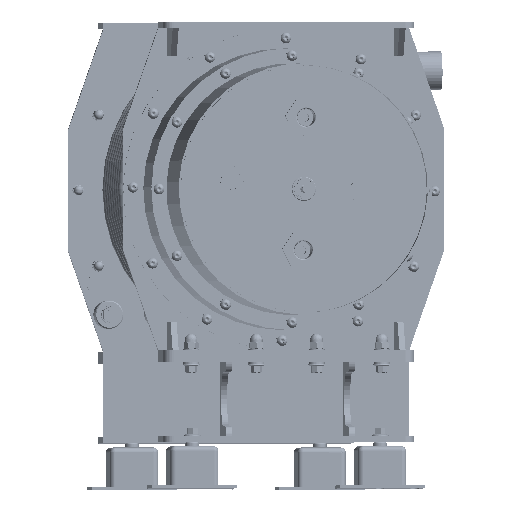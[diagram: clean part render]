
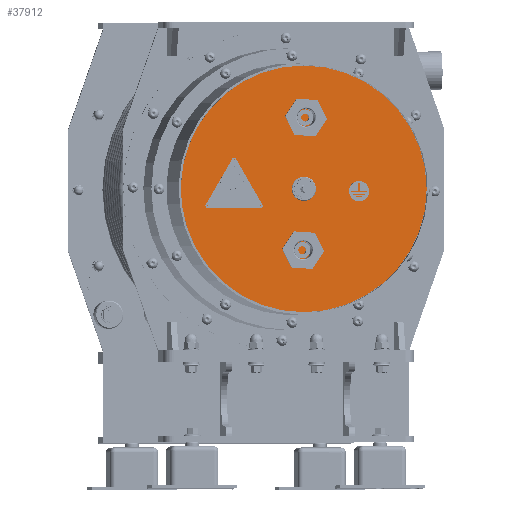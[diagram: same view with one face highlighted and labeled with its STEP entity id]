
A CAD part, top view. The second image highlights one B-rep face of the part: STEP entity #37912.
In plain terms, the highlighted planar face has unit normal (0.077, 0, 0.997) as drawn and (0, 1, 0) by its records, which use the part's own axes.
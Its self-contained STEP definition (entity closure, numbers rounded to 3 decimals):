
#364 = ORIENTED_EDGE ( 'NONE', *, *, #25980, .T. ) ;
#1446 = EDGE_LOOP ( 'NONE', ( #8069, #7430 ) ) ;
#5362 = DIRECTION ( 'NONE',  ( 0., 1., 0. ) ) ;
#7430 = ORIENTED_EDGE ( 'NONE', *, *, #29658, .F. ) ;
#8069 = ORIENTED_EDGE ( 'NONE', *, *, #67964, .F. ) ;
#11007 = DIRECTION ( 'NONE',  ( 0., 1., 0. ) ) ;
#11892 = CIRCLE ( 'NONE', #40974, 5. ) ;
#13394 = CARTESIAN_POINT ( 'NONE',  ( 0., 3., 0. ) ) ;
#19681 = VERTEX_POINT ( 'NONE', #58886 ) ;
#23355 = AXIS2_PLACEMENT_3D ( 'NONE', #29003, #28185, #65844 ) ;
#25980 = EDGE_CURVE ( 'NONE', #79465, #74448, #38286, .T. ) ;
#28185 = DIRECTION ( 'NONE',  ( 0., 1., 0. ) ) ;
#29003 = CARTESIAN_POINT ( 'NONE',  ( 0., 3., 0. ) ) ;
#29658 = EDGE_CURVE ( 'NONE', #19681, #50472, #34231, .T. ) ;
#33379 = DIRECTION ( 'NONE',  ( 0., 1., 0. ) ) ;
#34231 = CIRCLE ( 'NONE', #50084, 5. ) ;
#37035 = DIRECTION ( 'NONE',  ( 0., 0., 1. ) ) ;
#37912 = ADVANCED_FACE ( 'NONE', ( #77522, #75197 ), #76722, .T. ) ;
#37991 = CARTESIAN_POINT ( 'NONE',  ( 0., 3., 0. ) ) ;
#38286 = CIRCLE ( 'NONE', #67438, 122.5 ) ;
#39169 = DIRECTION ( 'NONE',  ( 0., 0., 1. ) ) ;
#40974 = AXIS2_PLACEMENT_3D ( 'NONE', #37991, #5362, #55414 ) ;
#42434 = CARTESIAN_POINT ( 'NONE',  ( 0., 3., 0. ) ) ;
#46386 = EDGE_CURVE ( 'NONE', #74448, #79465, #72149, .T. ) ;
#50084 = AXIS2_PLACEMENT_3D ( 'NONE', #70653, #33379, #39169 ) ;
#50472 = VERTEX_POINT ( 'NONE', #60574 ) ;
#55414 = DIRECTION ( 'NONE',  ( 0., 0., 1. ) ) ;
#55728 = DIRECTION ( 'NONE',  ( 0., 1., 0. ) ) ;
#57324 = CARTESIAN_POINT ( 'NONE',  ( 0., 3., -122.5 ) ) ;
#58886 = CARTESIAN_POINT ( 'NONE',  ( 0., 3., -5. ) ) ;
#60540 = ORIENTED_EDGE ( 'NONE', *, *, #46386, .T. ) ;
#60574 = CARTESIAN_POINT ( 'NONE',  ( 0., 3., 5. ) ) ;
#63890 = DIRECTION ( 'NONE',  ( 0., 0., 1. ) ) ;
#65844 = DIRECTION ( 'NONE',  ( 0., 0., 1. ) ) ;
#66945 = EDGE_LOOP ( 'NONE', ( #364, #60540 ) ) ;
#67438 = AXIS2_PLACEMENT_3D ( 'NONE', #42434, #11007, #37035 ) ;
#67964 = EDGE_CURVE ( 'NONE', #50472, #19681, #11892, .T. ) ;
#69434 = AXIS2_PLACEMENT_3D ( 'NONE', #13394, #55728, #63890 ) ;
#70653 = CARTESIAN_POINT ( 'NONE',  ( 0., 3., 0. ) ) ;
#72149 = CIRCLE ( 'NONE', #23355, 122.5 ) ;
#74448 = VERTEX_POINT ( 'NONE', #78309 ) ;
#75197 = FACE_OUTER_BOUND ( 'NONE', #66945, .T. ) ;
#76722 = PLANE ( 'NONE',  #69434 ) ;
#77522 = FACE_BOUND ( 'NONE', #1446, .T. ) ;
#78309 = CARTESIAN_POINT ( 'NONE',  ( 0., 3., 122.5 ) ) ;
#79465 = VERTEX_POINT ( 'NONE', #57324 ) ;
